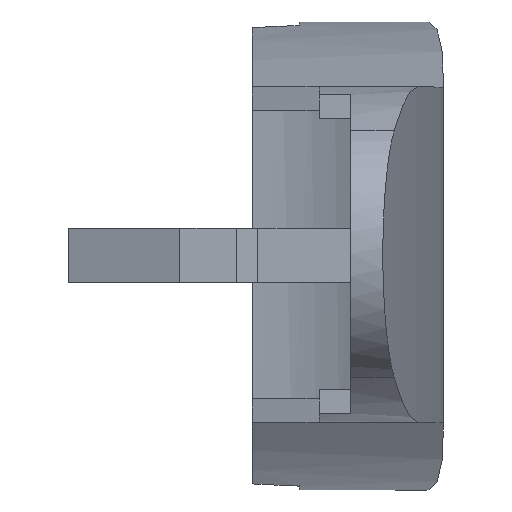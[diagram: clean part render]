
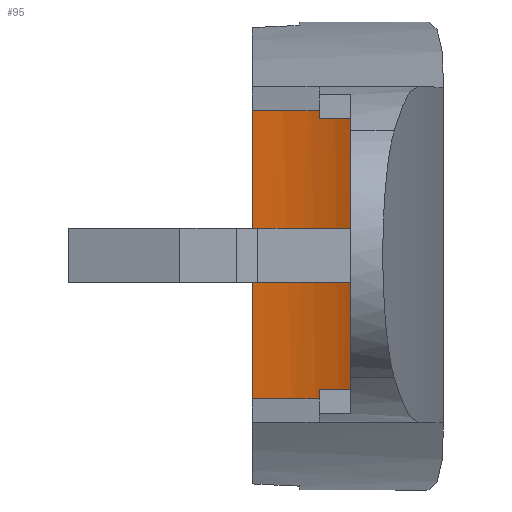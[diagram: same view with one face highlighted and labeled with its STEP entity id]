
A CAD part, top view. The second image highlights one B-rep face of the part: STEP entity #95.
In plain terms, the highlighted cylindrical face has radius 13.7 mm (diameter 27.4 mm), a partial arc.
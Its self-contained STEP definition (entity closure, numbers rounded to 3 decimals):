
#95 = ADVANCED_FACE( '', ( #227 ), #228, .F. );
#227 = FACE_OUTER_BOUND( '', #394, .T. );
#228 = CYLINDRICAL_SURFACE( '', #395, 13.7 );
#394 = EDGE_LOOP( '', ( #611, #612, #613, #614 ) );
#395 = AXIS2_PLACEMENT_3D( '', #615, #616, #617 );
#611 = ORIENTED_EDGE( '', *, *, #1093, .T. );
#612 = ORIENTED_EDGE( '', *, *, #1094, .T. );
#613 = ORIENTED_EDGE( '', *, *, #1095, .F. );
#614 = ORIENTED_EDGE( '', *, *, #1096, .T. );
#615 = CARTESIAN_POINT( '', ( -0.541, 12.975, 14.99 ) );
#616 = DIRECTION( '', ( 0., 1., 0. ) );
#617 = DIRECTION( '', ( 0., 0., -1. ) );
#1093 = EDGE_CURVE( '', #1337, #1338, #1339, .T. );
#1094 = EDGE_CURVE( '', #1338, #1340, #1341, .T. );
#1095 = EDGE_CURVE( '', #1342, #1340, #1343, .T. );
#1096 = EDGE_CURVE( '', #1342, #1337, #1344, .T. );
#1337 = VERTEX_POINT( '', #1717 );
#1338 = VERTEX_POINT( '', #1718 );
#1339 = LINE( '', #1719, #1720 );
#1340 = VERTEX_POINT( '', #1721 );
#1341 = B_SPLINE_CURVE_WITH_KNOTS( '', 3, ( #1722, #1723, #1724, #1725, #1726, #1727, #1728, #1729, #1730, #1731 ), .UNSPECIFIED., .F., .F., ( 4, 2, 2, 2, 4 ), ( 0., 0.004, 0.005, 0.006, 0.008 ), .UNSPECIFIED. );
#1342 = VERTEX_POINT( '', #1732 );
#1343 = LINE( '', #1733, #1734 );
#1344 = B_SPLINE_CURVE_WITH_KNOTS( '', 3, ( #1735, #1736, #1737, #1738, #1739, #1740, #1741, #1742, #1743, #1744 ), .UNSPECIFIED., .F., .F., ( 4, 2, 2, 2, 4 ), ( 0., 0.004, 0.005, 0.006, 0.008 ), .UNSPECIFIED. );
#1717 = CARTESIAN_POINT( '', ( 0., 10.98, 1.301 ) );
#1718 = CARTESIAN_POINT( '', ( 0., -10.98, 1.301 ) );
#1719 = CARTESIAN_POINT( '', ( 0., 12.975, 1.301 ) );
#1720 = VECTOR( '', #2163, 1000. );
#1721 = CARTESIAN_POINT( '', ( 7.665, -11.288, 4.02 ) );
#1722 = CARTESIAN_POINT( '', ( 0., -10.98, 1.301 ) );
#1723 = CARTESIAN_POINT( '', ( 1.387, -10.987, 1.356 ) );
#1724 = CARTESIAN_POINT( '', ( 2.731, -11.021, 1.615 ) );
#1725 = CARTESIAN_POINT( '', ( 4.357, -11.091, 2.191 ) );
#1726 = CARTESIAN_POINT( '', ( 4.68, -11.106, 2.32 ) );
#1727 = CARTESIAN_POINT( '', ( 5.311, -11.138, 2.599 ) );
#1728 = CARTESIAN_POINT( '', ( 5.621, -11.155, 2.749 ) );
#1729 = CARTESIAN_POINT( '', ( 6.529, -11.209, 3.236 ) );
#1730 = CARTESIAN_POINT( '', ( 7.11, -11.248, 3.605 ) );
#1731 = CARTESIAN_POINT( '', ( 7.665, -11.288, 4.02 ) );
#1732 = CARTESIAN_POINT( '', ( 7.665, 11.288, 4.02 ) );
#1733 = CARTESIAN_POINT( '', ( 7.665, 12.975, 4.02 ) );
#1734 = VECTOR( '', #2164, 1000. );
#1735 = CARTESIAN_POINT( '', ( 7.665, 11.288, 4.02 ) );
#1736 = CARTESIAN_POINT( '', ( 6.555, 11.208, 3.19 ) );
#1737 = CARTESIAN_POINT( '', ( 5.35, 11.133, 2.545 ) );
#1738 = CARTESIAN_POINT( '', ( 3.725, 11.064, 1.967 ) );
#1739 = CARTESIAN_POINT( '', ( 3.393, 11.051, 1.863 ) );
#1740 = CARTESIAN_POINT( '', ( 2.727, 11.028, 1.681 ) );
#1741 = CARTESIAN_POINT( '', ( 2.391, 11.019, 1.603 ) );
#1742 = CARTESIAN_POINT( '', ( 1.378, 10.994, 1.408 ) );
#1743 = CARTESIAN_POINT( '', ( 0.694, 10.983, 1.328 ) );
#1744 = CARTESIAN_POINT( '', ( 0., 10.98, 1.301 ) );
#2163 = DIRECTION( '', ( 0., -1., 0. ) );
#2164 = DIRECTION( '', ( 0., -1., 0. ) );
